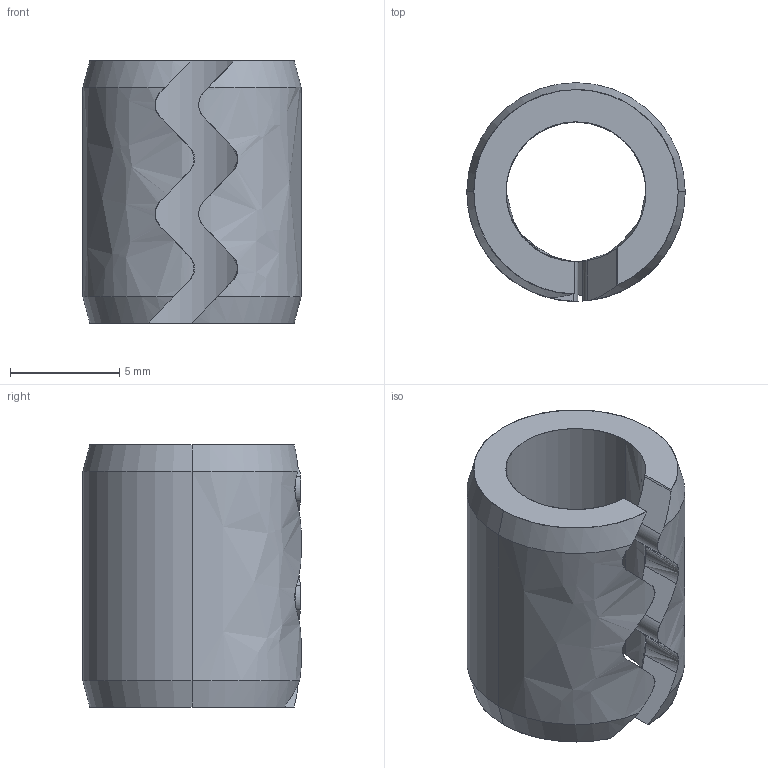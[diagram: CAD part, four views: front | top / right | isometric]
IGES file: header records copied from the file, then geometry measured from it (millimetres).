
Global section: file name: E:\UnigraphicsGraphicData\MISUMI_PRESS-PARTS\IGES\3d_swa10_00408_r00.igs; native system: NX V5.0; preprocessor: UGS NX IGES V5.0; author: MISUMI; date: 20110105.163248; units: millimetre
Bounding box: 10 x 10 x 12 mm (x, y, z)
Surface area: 692.9 mm2 (no closed solid volume)
Topology: 0 solids, 0 shells, 34 faces, 214 edges, 214 vertices
Faces by surface type: bspline 34
